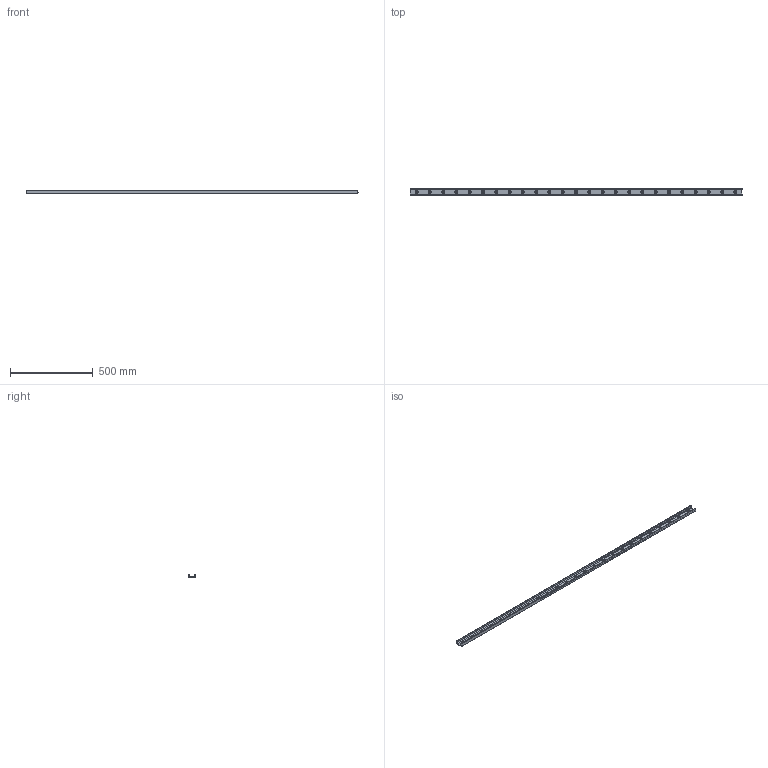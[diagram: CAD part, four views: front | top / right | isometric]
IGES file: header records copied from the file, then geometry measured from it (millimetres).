
Start section: SolidWorks IGES file using analytic representation for surfaces
Global section: file name: C:\Users\IanO\Desktop\43\L1943.ULC43_v2_20180121_IGES\L1943.ULC43-2000.igs; native system: SolidWorks 2017; preprocessor: SolidWorks 2017; author: IanO; date: 190121.084900; units: millimetre
Bounding box: 2000 x 43 x 21 mm (x, y, z)
Surface area: 313854.3 mm2 (no closed solid volume)
Topology: 0 solids, 0 shells, 151 faces, 3894 edges, 3894 vertices
Faces by surface type: revolution 113, bspline 38
